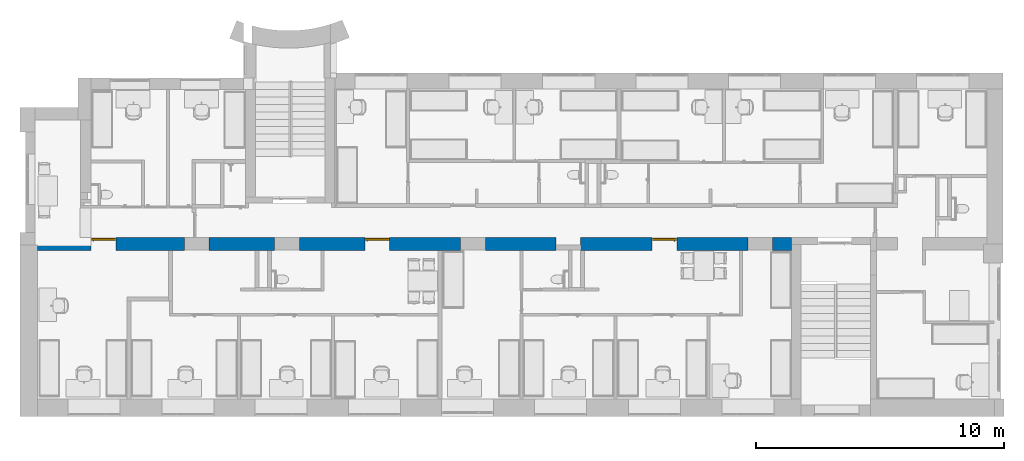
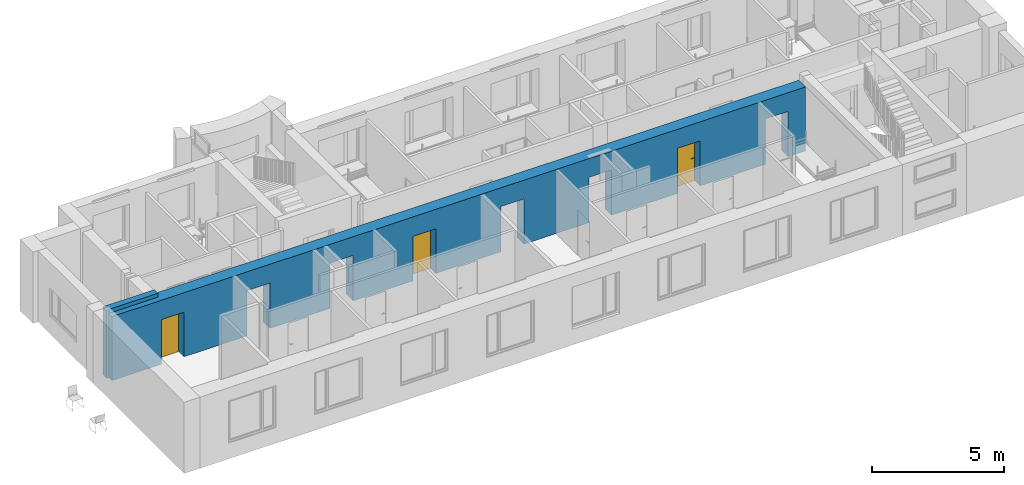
# One storey, part 16 of 48: 3 doors, 1 wall, 3 openings.
"""IFC2X3 building model written with IfcOpenShell, lengths in millimetres."""

from ifc_helpers import new_model, entity, si_unit, converted_unit, derived_unit, direction, frame, frame_2d, origin, place, context, subcontext, project, spatial, rectangle, extrude, faceted_brep, source, transform, mapped, material, material_list, layer, layer_set, type_object, type_shapes, element, fill, save


model = new_model("IFC2X3")

# Units and contexts
model_context = context("Model", 3, precision=0.01, world=origin(), true_north=direction((6.12303176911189e-17, 1.0)))
body_context = subcontext(model_context, "Body", "Model", "MODEL_VIEW")
ifc_project = project(units=[si_unit("LENGTHUNIT", "METRE", prefix="MILLI"), si_unit("AREAUNIT", "SQUARE_METRE"), si_unit("VOLUMEUNIT", "CUBIC_METRE"), converted_unit("PLANEANGLEUNIT", "DEGREE", entity("IfcRatioMeasure", 0.0174532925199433), si_unit("PLANEANGLEUNIT", "RADIAN"), dimensions=[0, 0, 0, 0, 0, 0, 0]), si_unit("MASSUNIT", "GRAM", prefix="KILO"), derived_unit("MASSDENSITYUNIT", [(si_unit("MASSUNIT", "GRAM", prefix="KILO"), 1), (si_unit("LENGTHUNIT", "METRE"), -3)]), si_unit("TIMEUNIT", "SECOND"), si_unit("FREQUENCYUNIT", "HERTZ"), si_unit("THERMODYNAMICTEMPERATUREUNIT", "DEGREE_CELSIUS"), derived_unit("THERMALTRANSMITTANCEUNIT", [(si_unit("MASSUNIT", "GRAM", prefix="KILO"), 1), (si_unit("THERMODYNAMICTEMPERATUREUNIT", "KELVIN"), -1), (si_unit("TIMEUNIT", "SECOND"), -3)]), derived_unit("VOLUMETRICFLOWRATEUNIT", [(si_unit("LENGTHUNIT", "METRE"), 3), (si_unit("TIMEUNIT", "SECOND"), -1)]), si_unit("ELECTRICCURRENTUNIT", "AMPERE"), si_unit("ELECTRICVOLTAGEUNIT", "VOLT"), si_unit("POWERUNIT", "WATT"), si_unit("FORCEUNIT", "NEWTON", prefix="KILO"), si_unit("ILLUMINANCEUNIT", "LUX"), si_unit("LUMINOUSFLUXUNIT", "LUMEN"), si_unit("LUMINOUSINTENSITYUNIT", "CANDELA"), derived_unit("USERDEFINED", [(si_unit("MASSUNIT", "GRAM", prefix="KILO"), -1), (si_unit("LENGTHUNIT", "METRE"), -2), (si_unit("TIMEUNIT", "SECOND"), 3), (si_unit("LUMINOUSFLUXUNIT", "LUMEN"), 1)]), derived_unit("LINEARVELOCITYUNIT", [(si_unit("LENGTHUNIT", "METRE"), 1), (si_unit("TIMEUNIT", "SECOND"), -1)]), si_unit("PRESSUREUNIT", "PASCAL"), derived_unit("USERDEFINED", [(si_unit("LENGTHUNIT", "METRE"), -2), (si_unit("MASSUNIT", "GRAM", prefix="KILO"), 1), (si_unit("TIMEUNIT", "SECOND"), -2)]), derived_unit("LINEARFORCEUNIT", [(si_unit("MASSUNIT", "GRAM", prefix="KILO"), 1), (si_unit("LENGTHUNIT", "METRE"), 1), (si_unit("TIMEUNIT", "SECOND"), -2), (si_unit("LENGTHUNIT", "METRE"), -1)]), derived_unit("PLANARFORCEUNIT", [(si_unit("MASSUNIT", "GRAM", prefix="KILO"), 1), (si_unit("LENGTHUNIT", "METRE"), 1), (si_unit("TIMEUNIT", "SECOND"), -2), (si_unit("LENGTHUNIT", "METRE"), -2)])], contexts=[model_context])

# Site, building, storey
site_placement = place(None, origin())
site = spatial("IfcSite", under=ifc_project, at=site_placement, Name="Default", CompositionType="ELEMENT")
building_placement = place(site_placement, origin())
building = spatial("IfcBuilding", under=site, at=building_placement, Name="SMA ARH", CompositionType="ELEMENT")
storey_placement = place(building_placement, frame((0.0, 0.0, 3300.0)))
storey = spatial("IfcBuildingStorey", under=building, at=storey_placement, Name="2 Korrus", CompositionType="ELEMENT", Elevation=3299.99999999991)

# Wall, openings, doors
ifc_material_1 = material(Name="_ol.olev sein")
ifc_layer = layer(ifc_material_1, 520.0)
ifc_layer_set = layer_set([ifc_layer], Name="Basic Wall:Generic - 520mm")
wall_type = type_object("IfcWallType", Name="Basic Wall:Generic - 520mm", PredefinedType="STANDARD", material=ifc_layer_set)
wall_placement = place(storey_placement, frame((-100.0, 6260.0, 0.0)))
wall = element("IfcWall", 1, at=wall_placement, inside=storey, type_object=wall_type, Name="Basic Wall:Generic - 520mm", ObjectType="Basic Wall:Generic - 520mm", context=body_context, shape_type="Brep", body=[
    faceted_brep([(14310.0, -260.0, 2070.0), (14310.0, -260.0, 0.0), (16258.0, -260.0, 0.0), (16420.5, -260.0, 0.0), (17175.0, -260.0, 0.0), (17175.0, -260.0, 2100.0), (18175.0, -260.0, 2100.0), (18175.0, -260.0, 0.0), (19572.0, -260.0, 0.0), (19688.0, -260.0, 0.0), (21030.0, -260.0, 0.0), (21030.0, -260.0, 2100.0), (22020.0, -260.0, 2100.0), (22020.0, -260.0, 0.0), (22170.0, -260.0, 0.0), (24903.9550000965, -260.0, 0.0), (24903.9550000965, -260.0, 2090.0), (25903.9550000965, -260.0, 2090.0), (25903.9550000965, -260.0, 0.0), (28430.4550000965, -260.0, 0.0), (28546.4550000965, -260.0, 0.0), (28765.0, -260.0, 0.0), (28765.0, -260.0, 2100.0), (29765.0, -260.0, 2100.0), (29765.0, -260.0, 0.0), (30530.0, -260.0, 0.0), (30530.0, -260.0, 2970.0), (100.0, -260.0, 2970.0), (100.0, -260.0, 0.0), (2265.0, -260.0, 0.0), (2265.0, -260.0, 2070.0), (3265.0, -260.0, 2070.0), (3265.0, -260.0, 0.0), (5382.50000000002, -260.0, 0.0), (5545.0, -260.0, 0.0), (6030.0, -260.0, 0.0), (6030.0, -260.0, 2100.0), (7030.0, -260.0, 2100.0), (7030.0, -260.0, 0.0), (8890.0, -260.0, 0.0), (9040.0, -260.0, 0.0), (9390.0, -260.0, 0.0), (9540.0, -260.0, 0.0), (9675.0, -260.0, 0.0), (9675.0, -260.0, 2100.0), (10675.0, -260.0, 2100.0), (10675.0, -260.0, 0.0), (11542.0, -260.0, 0.0), (11658.0, -260.0, 0.0), (13310.0, -260.0, 0.0), (13310.0, -260.0, 2070.0), (0.0, 260.0, 0.0), (0.0, 260.0, 3151.09881863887), (2265.0, 260.0, 3151.09881863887), (2265.0, 260.0, 2970.0), (30530.0, 260.0, 2970.0), (30530.0, 260.0, 0.0), (29765.0, 260.0, 0.0), (29765.0, 260.0, 2100.0), (28765.0, 260.0, 2100.0), (28765.0, 260.0, 0.0), (25903.9550000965, 260.0, 0.0), (25903.9550000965, 260.0, 2090.0), (24903.9550000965, 260.0, 2090.0), (24903.9550000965, 260.0, 0.0), (22020.0, 260.0, 0.0), (22020.0, 260.0, 2100.0), (21030.0, 260.0, 2100.0), (21030.0, 260.0, 0.0), (18175.0, 260.0, 0.0), (18175.0, 260.0, 2100.0), (17175.0, 260.0, 2100.0), (17175.0, 260.0, 0.0), (14310.0, 260.0, 0.0), (14310.0, 260.0, 2070.0), (13310.0, 260.0, 2070.0), (13310.0, 260.0, 0.0), (10675.0, 260.0, 0.0), (10675.0, 260.0, 2100.0), (9675.0, 260.0, 2100.0), (9675.0, 260.0, 0.0), (7030.0, 260.0, 0.0), (7030.0, 260.0, 2100.0), (6497.82130046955, 260.0, 2100.0), (6335.32130046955, 260.0, 2100.0), (6030.0, 260.0, 2100.0), (6030.0, 260.0, 0.0), (3265.0, 260.0, 0.0), (3265.0, 260.0, 2070.0), (2265.0, 260.0, 2070.0), (2265.0, 260.0, 0.0), (6030.0, -250.0, 0.0), (0.0, -35.0, 3151.09881863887), (100.0, -35.0, 3151.09881863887), (100.0, -15.0, 3151.09881863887), (2265.0, -15.0, 3151.09881863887), (28765.0, -250.0, 2100.0), (29765.0, -250.0, 2100.0), (28765.0, -250.0, 0.0), (29765.0, -250.0, 0.0), (21030.0, -250.0, 0.0), (21030.0, -50.0, 0.0), (17175.0, -250.0, 2100.0), (18175.0, -250.0, 2100.0), (17175.0, -250.0, 0.0), (18175.0, -250.0, 0.0), (9675.0, -250.0, 2100.0), (10675.0, -250.0, 2100.0), (9675.0, -250.0, 0.0), (10675.0, -250.0, 0.0), (6030.0, -250.0, 2100.0), (7030.0, -250.0, 2100.0), (7030.0, -250.0, 0.0), (100.0, -35.0, 0.0), (100.0, -35.0, 2970.0), (0.0, -35.0, 0.0), (30530.0, -20.0, 0.0), (30530.0, -20.0, 2970.0), (2265.0, -15.0, 2970.0), (100.0, -15.0, 2970.0)], [[[0, 1, 2, 3, 4, 5, 6, 7, 8, 9, 10, 11, 12, 13, 14, 15, 16, 17, 18, 19, 20, 21, 22, 23, 24, 25, 26, 27, 28, 29, 30, 31, 32, 33, 34, 35, 36, 37, 38, 39, 40, 41, 42, 43, 44, 45, 46, 47, 48, 49, 50]], [[51, 52, 53, 54, 55, 56, 57, 58, 59, 60, 61, 62, 63, 64, 65, 66, 67, 68, 69, 70, 71, 72, 73, 74, 75, 76, 77, 78, 79, 80, 81, 82, 83, 84, 85, 86, 87, 88, 89, 90]], [[32, 87, 86, 91, 35, 34, 33]], [[52, 92, 93, 94, 95, 53]], [[0, 74, 73, 1]], [[74, 0, 50, 75]], [[75, 50, 49, 76]], [[31, 88, 87, 32]], [[88, 31, 30, 89]], [[89, 30, 29, 90]], [[63, 16, 15, 64]], [[16, 63, 62, 17]], [[17, 62, 61, 18]], [[22, 96, 59, 58, 97, 23]], [[59, 96, 22, 21, 98, 60]], [[23, 97, 58, 57, 99, 24]], [[11, 67, 66, 12]], [[67, 11, 10, 100, 101, 68]], [[5, 102, 71, 70, 103, 6]], [[71, 102, 5, 4, 104, 72]], [[6, 103, 70, 69, 105, 7]], [[44, 106, 79, 78, 107, 45]], [[79, 106, 44, 43, 108, 80]], [[45, 107, 78, 77, 109, 46]], [[36, 110, 85, 84, 83, 82, 111, 37]], [[85, 110, 36, 35, 91, 86]], [[37, 111, 82, 81, 112, 38]], [[12, 66, 65, 13]], [[113, 28, 27, 114]], [[93, 92, 115, 113, 114]], [[52, 51, 115, 92]], [[25, 116, 56, 55, 117, 26]], [[118, 119, 114, 27, 26, 117, 55, 54]], [[114, 119, 94, 93]], [[119, 118, 95, 94]], [[118, 54, 53, 95]], [[1, 73, 72, 104, 4, 3, 2]], [[18, 61, 60, 98, 21, 20, 19]], [[25, 24, 99, 57, 56, 116]], [[90, 29, 28, 113, 115, 51]], [[80, 108, 43, 42, 41, 40, 39, 38, 112, 81]], [[76, 49, 48, 47, 46, 109, 77]], [[68, 101, 100, 10, 9, 8, 7, 105, 69]], [[64, 15, 14, 13, 65]]]),
])
opening_1_placement = place(wall_placement, frame((14310.0, 260.0, 0.0)))
opening_1 = element("IfcOpeningElement", 2, at=opening_1_placement, cuts=wall, Name="SMA_D01, 1-poolne:SU-P-04 - 1000x2070 EI-30:1", ObjectType="Opening", context=body_context, shape_type="SweptSolid", body=[
    extrude(rectangle(XDim=2069.99999999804, YDim=1000.0, at=frame_2d((1034.99999999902, 500.000000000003), x_axis=(1.0, 0.0))), frame((0.0, 0.0, 0.0), z_axis=(0.0, -1.0, 0.0), x_axis=(0.0, 0.0, 1.0)), (0.0, 0.0, 1.0), 520.0),
])
opening_2_placement = place(wall_placement, frame((3265.0, 260.0, 0.0)))
opening_2 = element("IfcOpeningElement", 3, at=opening_2_placement, cuts=wall, Name="SMA_D01, 1-poolne:SU-P-09 - 1000x2070:1", ObjectType="Opening", context=body_context, shape_type="SweptSolid", body=[
    extrude(rectangle(XDim=2069.99999999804, YDim=1000.0, at=frame_2d((1034.99999999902, 500.0), x_axis=(1.0, 0.0))), frame((0.0, 0.0, 0.0), z_axis=(0.0, -1.0, 0.0), x_axis=(0.0, 0.0, 1.0)), (0.0, 0.0, 1.0), 520.0),
])
opening_3_placement = place(wall_placement, frame((25903.9550000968, 260.0, 0.0)))
opening_3 = element("IfcOpeningElement", 4, at=opening_3_placement, cuts=wall, Name="SMA_D01, 1-poolne:SU-P-04 - 1000x2090 EI-30:1", ObjectType="Opening", context=body_context, shape_type="SweptSolid", body=[
    extrude(rectangle(XDim=2089.99999999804, YDim=1000.0, at=frame_2d((1044.99999999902, 500.0), x_axis=(1.0, 0.0))), frame((0.0, 0.0, 0.0), z_axis=(0.0, -1.0, 0.0), x_axis=(0.0, 0.0, 1.0)), (0.0, 0.0, 1.0), 520.0),
])
ifc_material_2 = material(Name="EST. Metall. Alumiinium. Värvitud. RAL7023 (Concrete grey)")
ifc_material_3 = material(Name="EST. Klaas. 3x. Default")
ifc_material_4 = material(Name="<Unnamed>")
ifc_material_list_1 = material_list([ifc_material_3, ifc_material_4, ifc_material_2, ifc_material_2, ifc_material_4, ifc_material_4, ifc_material_2])
door_style_1 = type_object("IfcDoorStyle", Name="SMA_D01, 1-poolne:SU-P-04 - 1000x2070 EI-30", ConstructionType="NOTDEFINED", OperationType="NOTDEFINED", ParameterTakesPrecedence=False, Sizeable=False, material=ifc_material_list_1)
shared_shape_1 = source(origin(), body_context, "Body", "Brep", [
    faceted_brep([(890.0, 30.0, 1112.5), (795.0, 30.0, 1112.5), (795.0, 25.0, 1112.5), (915.0, 25.0, 1112.5), (915.0, 68.0, 1112.5), (890.0, 68.0, 1112.5), (890.0, 30.0, 1087.5), (890.0, 68.0, 1087.5), (915.0, 68.0, 1087.5), (915.0, 25.0, 1087.5), (795.0, 25.0, 1087.5), (795.0, 30.0, 1087.5)], [[[0, 1, 2, 3, 4, 5]], [[6, 7, 8, 9, 10, 11]], [[5, 7, 6, 0]], [[4, 8, 7, 5]], [[3, 9, 8, 4]], [[2, 10, 9, 3]], [[1, 11, 10, 2]], [[0, 6, 11, 1]]]),
    faceted_brep([(877.500000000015, 68.0, 1137.5), (927.500000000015, 68.0, 1137.5), (927.500000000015, 70.0, 1137.5), (877.500000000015, 70.0, 1137.5), (877.500000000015, 68.0, 1017.5), (877.500000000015, 70.0, 1017.5), (927.500000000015, 70.0, 1017.5), (927.500000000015, 68.0, 1017.5)], [[[0, 1, 2, 3]], [[4, 5, 6, 7]], [[3, 5, 4, 0]], [[2, 6, 5, 3]], [[1, 7, 6, 2]], [[0, 4, 7, 1]]]),
    faceted_brep([(890.0, 160.0, 1112.5), (890.0, 122.0, 1112.5), (915.0, 122.0, 1112.5), (915.0, 165.0, 1112.5), (795.0, 165.0, 1112.5), (795.0, 160.0, 1112.5), (890.0, 160.0, 1087.5), (795.0, 160.0, 1087.5), (795.0, 165.0, 1087.5), (915.0, 165.0, 1087.5), (915.0, 122.0, 1087.5), (890.0, 122.0, 1087.5)], [[[0, 1, 2, 3, 4, 5]], [[6, 7, 8, 9, 10, 11]], [[1, 0, 6, 11]], [[2, 1, 11, 10]], [[3, 2, 10, 9]], [[4, 3, 9, 8]], [[5, 4, 8, 7]], [[0, 5, 7, 6]]]),
    faceted_brep([(877.500000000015, 122.0, 1137.5), (877.500000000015, 120.0, 1137.5), (927.500000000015, 120.0, 1137.5), (927.500000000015, 122.0, 1137.5), (877.500000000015, 122.0, 1017.5), (927.500000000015, 122.0, 1017.5), (927.500000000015, 120.0, 1017.5), (877.500000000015, 120.0, 1017.5)], [[[0, 1, 2, 3]], [[4, 5, 6, 7]], [[1, 0, 4, 7]], [[2, 1, 7, 6]], [[3, 2, 6, 5]], [[0, 3, 5, 4]]]),
    faceted_brep([(50.0, 30.0, 30.0), (50.0, 70.0, 30.0), (50.0, 70.0, 20.0), (50.0, 70.0, 0.0), (50.0, 30.0, 0.0), (950.0, 30.0, 30.0), (950.0, 30.0, 0.0), (950.0, 70.0, 0.0), (950.0, 70.0, 20.0), (950.0, 70.0, 30.0), (35.0, 70.0, 0.0), (35.0, 120.0, 0.0), (965.0, 120.0, 0.0), (965.0, 70.0, 0.0), (35.0, 120.0, 20.0), (35.0, 70.0, 20.0), (965.0, 120.0, 20.0), (965.0, 70.0, 20.0)], [[[0, 1, 2, 3, 4]], [[5, 6, 7, 8, 9]], [[4, 6, 5, 0]], [[3, 10, 11, 12, 13, 7, 6, 4]], [[9, 8, 2, 1]], [[0, 5, 9, 1]], [[14, 11, 10, 15]], [[16, 17, 13, 12]], [[15, 2, 8, 17, 16, 14]], [[10, 3, 2, 15]], [[14, 16, 12, 11]], [[17, 8, 7, 13]]]),
    faceted_brep([(10.0, 30.0, 0.0), (10.0, 120.0, 0.0), (35.0, 120.0, 0.0), (35.0, 70.0, 0.0), (50.0, 70.0, 0.0), (50.0, 30.0, 0.0), (50.0, 30.0, 2020.0), (950.0, 30.0, 2020.0), (950.0, 30.0, 0.0), (990.0, 30.0, 0.0), (990.0, 30.0, 2060.0), (10.0, 30.0, 2060.0), (50.0, 70.0, 2020.0), (35.0, 70.0, 2035.0), (965.0, 70.0, 2035.0), (965.0, 70.0, 0.0), (950.0, 70.0, 0.0), (950.0, 70.0, 2020.0), (35.0, 120.0, 2035.0), (10.0, 120.0, 2060.0), (990.0, 120.0, 2060.0), (990.0, 120.0, 0.0), (965.0, 120.0, 0.0), (965.0, 120.0, 2035.0)], [[[0, 1, 2, 3, 4, 5]], [[5, 6, 7, 8, 9, 10, 11, 0]], [[4, 12, 6, 5]], [[3, 13, 14, 15, 16, 17, 12, 4]], [[2, 18, 13, 3]], [[1, 19, 20, 21, 22, 23, 18, 2]], [[0, 11, 19, 1]], [[9, 21, 20, 10]], [[8, 16, 15, 22, 21, 9]], [[7, 17, 16, 8]], [[14, 23, 22, 15]], [[6, 12, 17, 7]], [[13, 18, 23, 14]], [[10, 20, 19, 11]]]),
    faceted_brep([(965.0, 70.0, 2035.0), (35.0, 70.0, 2035.0), (35.0, 70.0, 20.0), (965.0, 70.0, 20.0), (965.0, 120.0, 2035.0), (965.0, 120.0, 20.0), (35.0, 120.0, 20.0), (35.0, 120.0, 2035.0)], [[[0, 1, 2, 3]], [[4, 5, 6, 7]], [[3, 5, 4, 0]], [[2, 6, 5, 3]], [[1, 7, 6, 2]], [[0, 4, 7, 1]]]),
])
type_shapes(door_style_1, [shared_shape_1])
door_1_placement = place(opening_1_placement, frame((0.0, 0.0, 0.0), z_axis=(0.0, 0.0, 1.0), x_axis=(-1.0, 0.0, 0.0)))
door_1 = element("IfcDoor", 5, at=door_1_placement, inside=storey, type_object=door_style_1, material=ifc_material_2, Name="SMA_D01, 1-poolne:SU-P-04 - 1000x2070 EI-30", ObjectType="SMA_D01, 1-poolne:SU-P-04 - 1000x2070 EI-30", OverallHeight=2069.99999999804, OverallWidth=1000.0, context=body_context, shape_type="MappedRepresentation", body=[
    mapped(shared_shape_1, transform((0.0, 0.0, 0.0), scale=1.0)),
])
fill(opening_1, door_1)
ifc_material_list_2 = material_list([ifc_material_4, ifc_material_2, ifc_material_4, ifc_material_4, ifc_material_2, ifc_material_2, ifc_material_3])
door_style_2 = type_object("IfcDoorStyle", Name="SMA_D01, 1-poolne:SU-P-09 - 1000x2070", ConstructionType="NOTDEFINED", OperationType="NOTDEFINED", ParameterTakesPrecedence=False, Sizeable=False, material=ifc_material_list_2)
shared_shape_2 = source(origin(), body_context, "Body", "Brep", [
    faceted_brep([(890.0, 30.0, 1112.5), (795.0, 30.0, 1112.5), (795.0, 25.0, 1112.5), (915.0, 25.0, 1112.5), (915.0, 68.0, 1112.5), (890.0, 68.0, 1112.5), (890.0, 30.0, 1087.5), (890.0, 68.0, 1087.5), (915.0, 68.0, 1087.5), (915.0, 25.0, 1087.5), (795.0, 25.0, 1087.5), (795.0, 30.0, 1087.5)], [[[0, 1, 2, 3, 4, 5]], [[6, 7, 8, 9, 10, 11]], [[5, 7, 6, 0]], [[4, 8, 7, 5]], [[3, 9, 8, 4]], [[2, 10, 9, 3]], [[1, 11, 10, 2]], [[0, 6, 11, 1]]]),
    faceted_brep([(877.500000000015, 68.0, 1137.5), (927.500000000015, 68.0, 1137.5), (927.500000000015, 70.0, 1137.5), (877.500000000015, 70.0, 1137.5), (877.500000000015, 68.0, 1017.5), (877.500000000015, 70.0, 1017.5), (927.500000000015, 70.0, 1017.5), (927.500000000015, 68.0, 1017.5)], [[[0, 1, 2, 3]], [[4, 5, 6, 7]], [[3, 5, 4, 0]], [[2, 6, 5, 3]], [[1, 7, 6, 2]], [[0, 4, 7, 1]]]),
    faceted_brep([(890.0, 160.0, 1112.5), (890.0, 122.0, 1112.5), (915.0, 122.0, 1112.5), (915.0, 165.0, 1112.5), (795.0, 165.0, 1112.5), (795.0, 160.0, 1112.5), (890.0, 160.0, 1087.5), (795.0, 160.0, 1087.5), (795.0, 165.0, 1087.5), (915.0, 165.0, 1087.5), (915.0, 122.0, 1087.5), (890.0, 122.0, 1087.5)], [[[0, 1, 2, 3, 4, 5]], [[6, 7, 8, 9, 10, 11]], [[1, 0, 6, 11]], [[2, 1, 11, 10]], [[3, 2, 10, 9]], [[4, 3, 9, 8]], [[5, 4, 8, 7]], [[0, 5, 7, 6]]]),
    faceted_brep([(877.500000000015, 122.0, 1137.5), (877.500000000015, 120.0, 1137.5), (927.500000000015, 120.0, 1137.5), (927.500000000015, 122.0, 1137.5), (877.500000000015, 122.0, 1017.5), (927.500000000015, 122.0, 1017.5), (927.500000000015, 120.0, 1017.5), (877.500000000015, 120.0, 1017.5)], [[[0, 1, 2, 3]], [[4, 5, 6, 7]], [[1, 0, 4, 7]], [[2, 1, 7, 6]], [[3, 2, 6, 5]], [[0, 3, 5, 4]]]),
    faceted_brep([(50.0, 30.0, 30.0), (50.0, 70.0, 30.0), (50.0, 70.0, 20.0), (50.0, 70.0, 0.0), (50.0, 30.0, 0.0), (950.0, 30.0, 30.0), (950.0, 30.0, 0.0), (950.0, 70.0, 0.0), (950.0, 70.0, 20.0), (950.0, 70.0, 30.0), (35.0, 70.0, 0.0), (35.0, 120.0, 0.0), (965.0, 120.0, 0.0), (965.0, 70.0, 0.0), (35.0, 120.0, 20.0), (35.0, 70.0, 20.0), (965.0, 120.0, 20.0), (965.0, 70.0, 20.0)], [[[0, 1, 2, 3, 4]], [[5, 6, 7, 8, 9]], [[4, 6, 5, 0]], [[3, 10, 11, 12, 13, 7, 6, 4]], [[9, 8, 2, 1]], [[0, 5, 9, 1]], [[14, 11, 10, 15]], [[16, 17, 13, 12]], [[15, 2, 8, 17, 16, 14]], [[10, 3, 2, 15]], [[14, 16, 12, 11]], [[17, 8, 7, 13]]]),
    faceted_brep([(10.0, 30.0, 0.0), (10.0, 120.0, 0.0), (35.0, 120.0, 0.0), (35.0, 70.0, 0.0), (50.0, 70.0, 0.0), (50.0, 30.0, 0.0), (50.0, 30.0, 2020.0), (950.0, 30.0, 2020.0), (950.0, 30.0, 0.0), (990.0, 30.0, 0.0), (990.0, 30.0, 2060.0), (10.0, 30.0, 2060.0), (50.0, 70.0, 2020.0), (35.0, 70.0, 2035.0), (965.0, 70.0, 2035.0), (965.0, 70.0, 0.0), (950.0, 70.0, 0.0), (950.0, 70.0, 2020.0), (35.0, 120.0, 2035.0), (10.0, 120.0, 2060.0), (990.0, 120.0, 2060.0), (990.0, 120.0, 0.0), (965.0, 120.0, 0.0), (965.0, 120.0, 2035.0)], [[[0, 1, 2, 3, 4, 5]], [[5, 6, 7, 8, 9, 10, 11, 0]], [[4, 12, 6, 5]], [[3, 13, 14, 15, 16, 17, 12, 4]], [[2, 18, 13, 3]], [[1, 19, 20, 21, 22, 23, 18, 2]], [[0, 11, 19, 1]], [[9, 21, 20, 10]], [[8, 16, 15, 22, 21, 9]], [[7, 17, 16, 8]], [[14, 23, 22, 15]], [[6, 12, 17, 7]], [[13, 18, 23, 14]], [[10, 20, 19, 11]]]),
    faceted_brep([(965.0, 70.0, 2035.0), (35.0, 70.0, 2035.0), (35.0, 70.0, 20.0), (965.0, 70.0, 20.0), (965.0, 120.0, 2035.0), (965.0, 120.0, 20.0), (35.0, 120.0, 20.0), (35.0, 120.0, 2035.0)], [[[0, 1, 2, 3]], [[4, 5, 6, 7]], [[3, 5, 4, 0]], [[2, 6, 5, 3]], [[1, 7, 6, 2]], [[0, 4, 7, 1]]]),
])
type_shapes(door_style_2, [shared_shape_2])
door_2_placement = place(opening_2_placement, frame((0.0, 0.0, 0.0), z_axis=(0.0, 0.0, 1.0), x_axis=(-1.0, 0.0, 0.0)))
door_2 = element("IfcDoor", 6, at=door_2_placement, inside=storey, type_object=door_style_2, material=ifc_material_2, Name="SMA_D01, 1-poolne:SU-P-09 - 1000x2070", ObjectType="SMA_D01, 1-poolne:SU-P-09 - 1000x2070", OverallHeight=2069.99999999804, OverallWidth=1000.0, context=body_context, shape_type="MappedRepresentation", body=[
    mapped(shared_shape_2, transform((0.0, 0.0, 0.0), scale=1.0)),
])
fill(opening_2, door_2)
ifc_material_list_3 = material_list([ifc_material_4, ifc_material_4, ifc_material_3, ifc_material_4, ifc_material_2, ifc_material_2, ifc_material_2])
door_style_3 = type_object("IfcDoorStyle", Name="SMA_D01, 1-poolne:SU-P-04 - 1000x2090 EI-30", ConstructionType="NOTDEFINED", OperationType="NOTDEFINED", ParameterTakesPrecedence=False, Sizeable=False, material=ifc_material_list_3)
shared_shape_3 = source(origin(), body_context, "Body", "Brep", [
    faceted_brep([(110.0, 30.0, 1112.5), (110.0, 68.0, 1112.5), (85.0, 68.0, 1112.5), (85.0, 25.0, 1112.5), (205.0, 25.0, 1112.5), (205.0, 30.0, 1112.5), (110.0, 30.0, 1087.5), (205.0, 30.0, 1087.5), (205.0, 25.0, 1087.5), (85.0, 25.0, 1087.5), (85.0, 68.0, 1087.5), (110.0, 68.0, 1087.5)], [[[0, 1, 2, 3, 4, 5]], [[6, 7, 8, 9, 10, 11]], [[1, 0, 6, 11]], [[2, 1, 11, 10]], [[3, 2, 10, 9]], [[4, 3, 9, 8]], [[5, 4, 8, 7]], [[0, 5, 7, 6]]]),
    faceted_brep([(122.5, 68.0, 1137.5), (122.5, 70.0, 1137.5), (72.4999999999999, 70.0, 1137.5), (72.4999999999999, 68.0, 1137.5), (122.5, 68.0, 1017.5), (72.4999999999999, 68.0, 1017.5), (72.4999999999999, 70.0, 1017.5), (122.5, 70.0, 1017.5)], [[[0, 1, 2, 3]], [[4, 5, 6, 7]], [[1, 0, 4, 7]], [[2, 1, 7, 6]], [[3, 2, 6, 5]], [[0, 3, 5, 4]]]),
    faceted_brep([(110.0, 160.0, 1112.5), (205.0, 160.0, 1112.5), (205.0, 165.0, 1112.5), (85.0, 165.0, 1112.5), (85.0, 122.0, 1112.5), (110.0, 122.0, 1112.5), (110.0, 160.0, 1087.5), (110.0, 122.0, 1087.5), (85.0, 122.0, 1087.5), (85.0, 165.0, 1087.5), (205.0, 165.0, 1087.5), (205.0, 160.0, 1087.5)], [[[0, 1, 2, 3, 4, 5]], [[6, 7, 8, 9, 10, 11]], [[5, 7, 6, 0]], [[4, 8, 7, 5]], [[3, 9, 8, 4]], [[2, 10, 9, 3]], [[1, 11, 10, 2]], [[0, 6, 11, 1]]]),
    faceted_brep([(122.5, 122.0, 1137.5), (72.4999999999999, 122.0, 1137.5), (72.4999999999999, 120.0, 1137.5), (122.5, 120.0, 1137.5), (122.5, 122.0, 1017.5), (122.5, 120.0, 1017.5), (72.4999999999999, 120.0, 1017.5), (72.4999999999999, 122.0, 1017.5)], [[[0, 1, 2, 3]], [[4, 5, 6, 7]], [[3, 5, 4, 0]], [[2, 6, 5, 3]], [[1, 7, 6, 2]], [[0, 4, 7, 1]]]),
    faceted_brep([(950.0, 30.0, 30.0), (950.0, 30.0, 0.0), (950.0, 70.0, 0.0), (950.0, 70.0, 20.0), (950.0, 70.0, 30.0), (50.0, 30.0, 30.0), (50.0, 70.0, 30.0), (50.0, 70.0, 20.0), (50.0, 70.0, 0.0), (50.0, 30.0, 0.0), (35.0, 70.0, 0.0), (35.0, 120.0, 0.0), (965.0, 120.0, 0.0), (965.0, 70.0, 0.0), (965.0, 120.0, 20.0), (965.0, 70.0, 20.0), (35.0, 120.0, 20.0), (35.0, 70.0, 20.0)], [[[0, 1, 2, 3, 4]], [[5, 6, 7, 8, 9]], [[1, 0, 5, 9]], [[2, 1, 9, 8, 10, 11, 12, 13]], [[6, 4, 3, 7]], [[0, 4, 6, 5]], [[14, 15, 13, 12]], [[16, 11, 10, 17]], [[15, 14, 16, 17, 7, 3]], [[13, 15, 3, 2]], [[14, 12, 11, 16]], [[17, 10, 8, 7]]]),
    faceted_brep([(990.0, 30.0, 0.0), (950.0, 30.0, 0.0), (950.0, 70.0, 0.0), (965.0, 70.0, 0.0), (965.0, 120.0, 0.0), (990.0, 120.0, 0.0), (990.0, 30.0, 2080.0), (10.0, 30.0, 2080.0), (10.0, 30.0, 0.0), (50.0, 30.0, 0.0), (50.0, 30.0, 2040.0), (950.0, 30.0, 2040.0), (950.0, 70.0, 2040.0), (50.0, 70.0, 2040.0), (50.0, 70.0, 0.0), (35.0, 70.0, 0.0), (35.0, 70.0, 2055.0), (965.0, 70.0, 2055.0), (965.0, 120.0, 2055.0), (35.0, 120.0, 2055.0), (35.0, 120.0, 0.0), (10.0, 120.0, 0.0), (10.0, 120.0, 2080.0), (990.0, 120.0, 2080.0)], [[[0, 1, 2, 3, 4, 5]], [[1, 0, 6, 7, 8, 9, 10, 11]], [[2, 1, 11, 12]], [[3, 2, 12, 13, 14, 15, 16, 17]], [[4, 3, 17, 18]], [[5, 4, 18, 19, 20, 21, 22, 23]], [[0, 5, 23, 6]], [[8, 7, 22, 21]], [[9, 8, 21, 20, 15, 14]], [[10, 9, 14, 13]], [[16, 15, 20, 19]], [[11, 10, 13, 12]], [[17, 16, 19, 18]], [[7, 6, 23, 22]]]),
    faceted_brep([(35.0, 70.0, 2055.0), (35.0, 70.0, 20.0), (965.0, 70.0, 20.0), (965.0, 70.0, 2055.0), (35.0, 120.0, 2055.0), (965.0, 120.0, 2055.0), (965.0, 120.0, 20.0), (35.0, 120.0, 20.0)], [[[0, 1, 2, 3]], [[4, 5, 6, 7]], [[1, 0, 4, 7]], [[2, 1, 7, 6]], [[3, 2, 6, 5]], [[0, 3, 5, 4]]]),
])
type_shapes(door_style_3, [shared_shape_3])
door_3_placement = place(opening_3_placement, frame((0.0, 0.0, 0.0), z_axis=(0.0, 0.0, 1.0), x_axis=(-1.0, 0.0, 0.0)))
door_3 = element("IfcDoor", 7, at=door_3_placement, inside=storey, type_object=door_style_3, material=ifc_material_2, Name="SMA_D01, 1-poolne:SU-P-04 - 1000x2090 EI-30", ObjectType="SMA_D01, 1-poolne:SU-P-04 - 1000x2090 EI-30", OverallHeight=2089.99999999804, OverallWidth=999.999999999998, context=body_context, shape_type="MappedRepresentation", body=[
    mapped(shared_shape_3, transform((0.0, 0.0, 0.0), scale=1.0)),
])
fill(opening_3, door_3)

save(model, "model.ifc")
